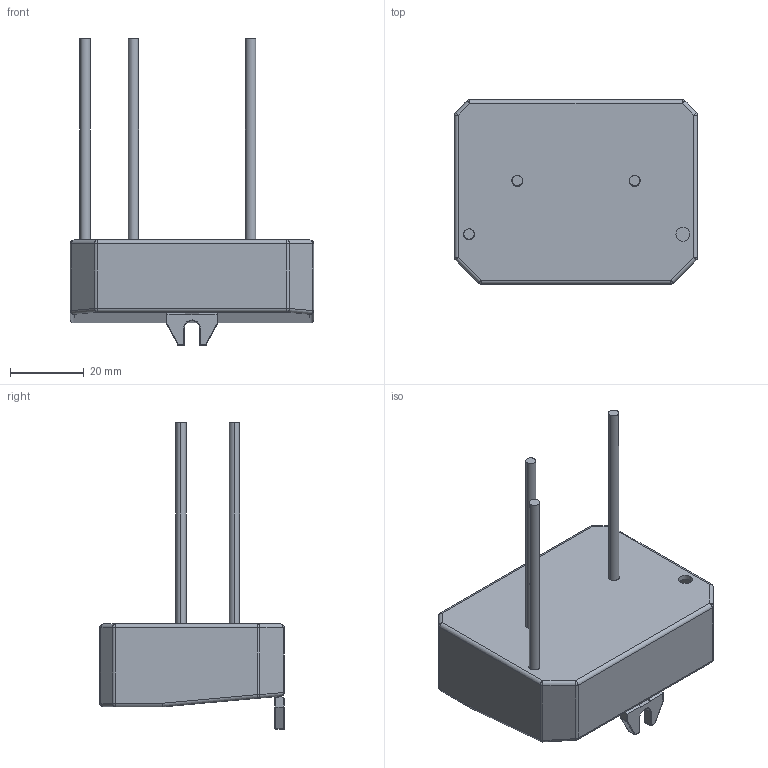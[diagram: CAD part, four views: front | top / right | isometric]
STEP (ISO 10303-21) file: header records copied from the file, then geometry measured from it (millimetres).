
FILE_DESCRIPTION (( 'STEP AP203' ), '1' );
FILE_NAME ('3D - ÜSS HSW7025 Außenkontur.STEP', '2019-08-14T08:09:33', ( '' ), ( '' ), 'SwSTEP 2.0', 'SolidWorks 2013', '' );
FILE_SCHEMA (( 'CONFIG_CONTROL_DESIGN' ));
Length unit declared in the file: millimetre
Products named in the file (1): 3D - ÜSS HSW7025 Außenkontur
Bounding box: 66 x 50 x 83.18 mm (x, y, z)
Surface area: 21039.3 mm2 (no closed solid volume)
Topology: 0 solids, 11 shells, 306 faces, 961 edges, 643 vertices
Faces by surface type: plane 153, cylinder 83, sphere 24, bspline 20, cone 20, torus 6
Entity records: 11661 total; most frequent: CARTESIAN_POINT 3189, DIRECTION 1739, ORIENTED_EDGE 1583, EDGE_CURVE 947, VERTEX_POINT 643, LINE 629, VECTOR 629, AXIS2_PLACEMENT_3D 555
